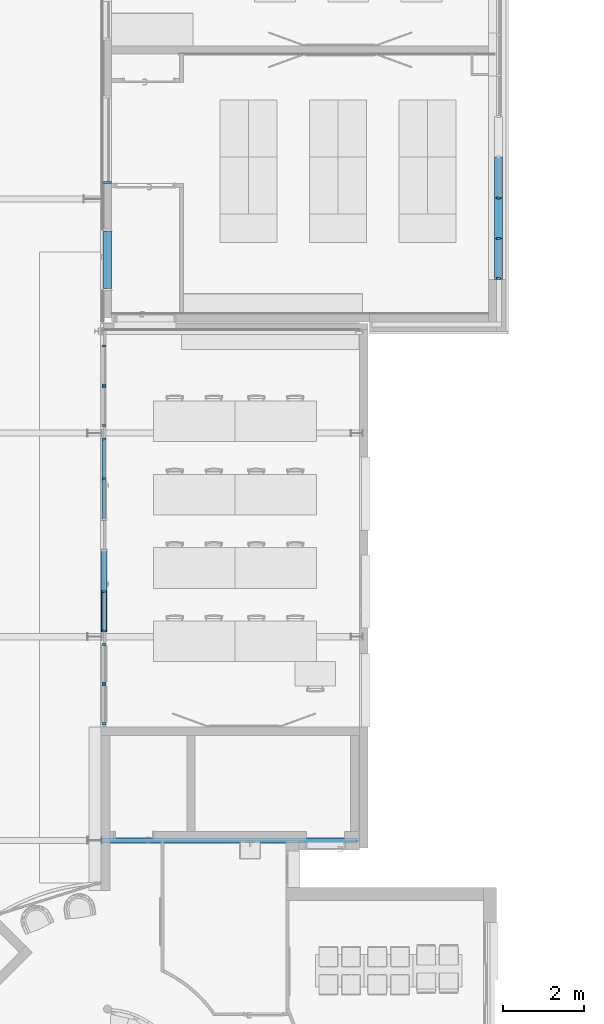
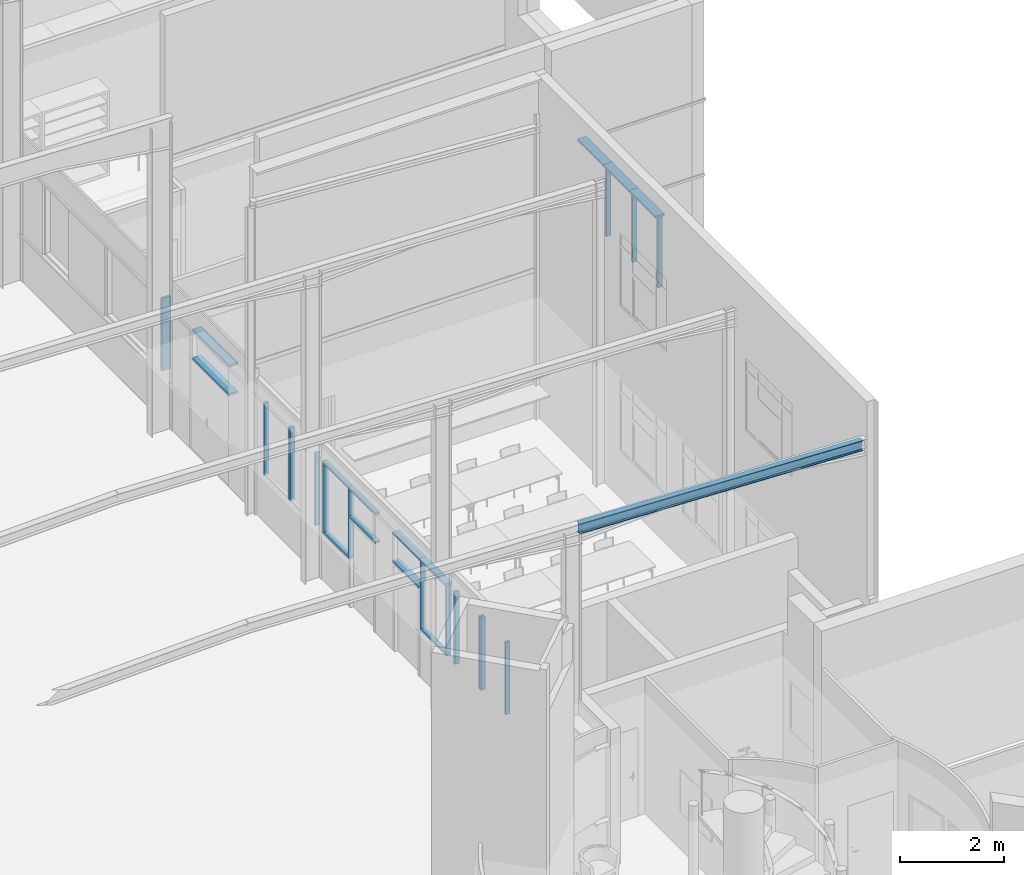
# One storey, part 12 of 137: 29 members, 2 beams, 9 elements without a shape of their own.
"""IFC2X3 building model written with IfcOpenShell, lengths in centimetres."""

from ifc_helpers import new_model, entity, si_unit, converted_unit, derived_unit, direction, frame, frame_2d, origin, origin_2d_with_axis, place, context, subcontext, project, spatial, rectangle, i_section, extrude, material, type_object, element, aggregate, save


model = new_model("IFC2X3")

# Units and contexts
model_context = context("Model", 3, precision=0.001, world=origin(), true_north=direction((6.12303176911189e-17, 1.0)))
body_context = subcontext(model_context, "Body", "Model", "MODEL_VIEW")
ifc_project = project(units=[si_unit("LENGTHUNIT", "METRE", prefix="CENTI"), si_unit("AREAUNIT", "SQUARE_METRE"), si_unit("VOLUMEUNIT", "CUBIC_METRE"), converted_unit("PLANEANGLEUNIT", "DEGREE", entity("IfcRatioMeasure", 0.0174532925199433), si_unit("PLANEANGLEUNIT", "RADIAN"), dimensions=[0, 0, 0, 0, 0, 0, 0]), si_unit("MASSUNIT", "GRAM", prefix="KILO"), si_unit("TIMEUNIT", "SECOND"), si_unit("FREQUENCYUNIT", "HERTZ"), si_unit("THERMODYNAMICTEMPERATUREUNIT", "DEGREE_CELSIUS"), derived_unit("THERMALTRANSMITTANCEUNIT", [(si_unit("MASSUNIT", "GRAM", prefix="KILO"), 1), (si_unit("THERMODYNAMICTEMPERATUREUNIT", "KELVIN"), -1), (si_unit("TIMEUNIT", "SECOND"), -3)]), derived_unit("VOLUMETRICFLOWRATEUNIT", [(si_unit("LENGTHUNIT", "METRE"), 3), (si_unit("TIMEUNIT", "SECOND"), -1)]), si_unit("ELECTRICCURRENTUNIT", "AMPERE"), si_unit("ELECTRICVOLTAGEUNIT", "VOLT"), si_unit("POWERUNIT", "WATT"), si_unit("FORCEUNIT", "NEWTON", prefix="KILO"), si_unit("ILLUMINANCEUNIT", "LUX"), si_unit("LUMINOUSFLUXUNIT", "LUMEN"), si_unit("LUMINOUSINTENSITYUNIT", "CANDELA"), derived_unit("USERDEFINED", [(si_unit("MASSUNIT", "GRAM", prefix="KILO"), -1), (si_unit("LENGTHUNIT", "METRE"), -2), (si_unit("TIMEUNIT", "SECOND"), 3), (si_unit("LUMINOUSFLUXUNIT", "LUMEN"), 1)]), derived_unit("LINEARVELOCITYUNIT", [(si_unit("LENGTHUNIT", "METRE"), 1), (si_unit("TIMEUNIT", "SECOND"), -1)]), si_unit("PRESSUREUNIT", "PASCAL"), derived_unit("USERDEFINED", [(si_unit("LENGTHUNIT", "METRE"), -2), (si_unit("MASSUNIT", "GRAM", prefix="KILO"), 1), (si_unit("TIMEUNIT", "SECOND"), -2)])], contexts=[model_context])

# Site, building, storey
site_placement = place(None, frame((8.62739174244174, -249.285249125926, 0.0)))
site = spatial("IfcSite", under=ifc_project, at=site_placement, Name="Default", CompositionType="ELEMENT")
building_placement = place(site_placement, origin())
building = spatial("IfcBuilding", under=site, at=building_placement, CompositionType="ELEMENT")
storey_placement = place(building_placement, origin())
storey = spatial("IfcBuildingStorey", under=building, at=storey_placement, Name="RDC", CompositionType="ELEMENT", Elevation=-8.82465566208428e-11)

# Beam
ifc_material_1 = material(Name="Métal - Acier - 345 MPa")
beam_1_placement = place(storey_placement, frame((3660.74584424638, 1361.98020806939, 710.800000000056), z_axis=(0.0383289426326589, 0.0, 0.999265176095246), x_axis=(-0.999265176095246, 0.0, 0.0383289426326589)))
element("IfcBeam", 1, at=beam_1_placement, inside=storey, material=ifc_material_1, Name="IPE-Poutrelles_240:IPE240", ObjectType="IPE-Poutrelles_240:IPE240", context=body_context, shape_type="SweptSolid", body=[
    extrude(i_section(OverallWidth=12.0000000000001, OverallDepth=24.0000000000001, WebThickness=0.710000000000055, FlangeThickness=1.0700000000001, FilletRadius=1.50000000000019, at=frame_2d((5.41788836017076e-14, 2.16715534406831e-13), x_axis=(0.0, 1.0))), frame((3.94283010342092, 0.0, -12.0), z_axis=(1.0, 0.0, 0.0), x_axis=(0.0, 0.0, -1.0)), (0.0, 0.0, 1.0), 630.0),
])

# Curtain wall, members
curtain_wall_type = type_object("IfcCurtainWallType", Name="Mur-rideau:Simple panneau", PredefinedType="NOTDEFINED")
curtain_wall_1_placement = place(storey_placement, origin())
curtain_wall_1 = element("IfcCurtainWall", 2, at=curtain_wall_1_placement, inside=storey, type_object=curtain_wall_type, Name="Mur-rideau:Simple panneau", ObjectType="Mur-rideau:Simple panneau")
ifc_material_2 = material(Name="Plastique, blanc opaque")
member_1_placement = place(curtain_wall_1_placement, origin())
member_1 = element("IfcMember", 3, at=member_1_placement, material=ifc_material_2, Name="Mur-rideau:Simple panneau", ObjectType="Mur-rideau:Simple panneau", context=body_context, shape_type="SweptSolid", body=[
    extrude(rectangle(XDim=5.0, YDim=20.0000000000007, at=frame_2d((2.70894418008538e-14, 0.0), x_axis=(1.0, 0.0))), frame((4003.90482781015, 2739.18519336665, 277.500000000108), z_axis=(0.0, 1.0, 0.0), x_axis=(0.0, 0.0, -1.0)), (0.0, 0.0, 1.0), 100.5),
])
member_2_placement = place(curtain_wall_1_placement, origin())
member_2 = element("IfcMember", 4, at=member_2_placement, material=ifc_material_2, Name="Mur-rideau:Simple panneau", ObjectType="Mur-rideau:Simple panneau", context=body_context, shape_type="SweptSolid", body=[
    extrude(rectangle(XDim=9.99999999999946, YDim=5.00000000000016, at=frame_2d((0.0, 2.16715534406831e-13), x_axis=(1.0, 0.0))), frame((4003.90482781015, 2741.68519336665, 110.0), z_axis=(0.0, 0.0, 1.0), x_axis=(-1.0, 0.0, 0.0)), (0.0, 0.0, 1.0), 165.000000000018),
])
member_3_placement = place(curtain_wall_1_placement, origin())
member_3 = element("IfcMember", 5, at=member_3_placement, material=ifc_material_2, Name="Mur-rideau:Simple panneau", ObjectType="Mur-rideau:Simple panneau", context=body_context, shape_type="SweptSolid", body=[
    extrude(rectangle(XDim=5.0, YDim=20.0000000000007, at=frame_2d((2.70894418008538e-14, 0.0), x_axis=(1.0, 0.0))), frame((4003.90482781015, 2939.68519336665, 277.500000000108), z_axis=(0.0, 1.0, 0.0), x_axis=(0.0, 0.0, -1.0)), (0.0, 0.0, 1.0), 100.000000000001),
])
member_4_placement = place(curtain_wall_1_placement, origin())
member_4 = element("IfcMember", 6, at=member_4_placement, material=ifc_material_2, Name="Mur-rideau:Simple panneau", ObjectType="Mur-rideau:Simple panneau", context=body_context, shape_type="SweptSolid", body=[
    extrude(rectangle(XDim=9.99999999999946, YDim=4.99999999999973, at=frame_2d((8.66418048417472e-13, 0.0), x_axis=(1.0, 0.0))), frame((4003.90482781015, 2939.68519336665, 110.0), z_axis=(0.0, 0.0, 1.0), x_axis=(-1.0, 0.0, 0.0)), (0.0, 0.0, 1.0), 165.000000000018),
])
member_5_placement = place(curtain_wall_1_placement, origin())
member_5 = element("IfcMember", 7, at=member_5_placement, material=ifc_material_2, Name="Mur-rideau:Simple panneau", ObjectType="Mur-rideau:Simple panneau", context=body_context, shape_type="SweptSolid", body=[
    extrude(rectangle(XDim=5.0, YDim=20.0000000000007, at=frame_2d((2.70894418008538e-14, 0.0), x_axis=(1.0, 0.0))), frame((4003.90482781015, 2839.68519336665, 277.500000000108), z_axis=(0.0, 1.0, 0.0), x_axis=(0.0, 0.0, -1.0)), (0.0, 0.0, 1.0), 100.000000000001),
])
member_6_placement = place(curtain_wall_1_placement, origin())
member_6 = element("IfcMember", 8, at=member_6_placement, material=ifc_material_2, Name="Mur-rideau:Simple panneau", ObjectType="Mur-rideau:Simple panneau", context=body_context, shape_type="SweptSolid", body=[
    extrude(rectangle(XDim=9.99999999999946, YDim=4.99999999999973, at=origin_2d_with_axis()), frame((4003.90482781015, 2839.68519336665, 110.0), z_axis=(0.0, 0.0, 1.0), x_axis=(-1.0, 0.0, 0.0)), (0.0, 0.0, 1.0), 165.000000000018),
])
aggregate(curtain_wall_1, [member_1, member_2, member_3, member_4, member_5, member_6])

# Curtain wall, member
curtain_wall_2_placement = place(storey_placement, origin())
curtain_wall_2 = element("IfcCurtainWall", 9, at=curtain_wall_2_placement, inside=storey, type_object=curtain_wall_type, Name="Mur-rideau:Simple panneau", ObjectType="Mur-rideau:Simple panneau")
member_7_placement = place(curtain_wall_2_placement, origin())
member_7 = element("IfcMember", 10, at=member_7_placement, material=ifc_material_2, Name="Mur-rideau:Simple panneau", ObjectType="Mur-rideau:Simple panneau", context=body_context, shape_type="SweptSolid", body=[
    extrude(rectangle(XDim=19.9999999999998, YDim=5.00000000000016, at=frame_2d((0.0, -2.16715534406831e-13), x_axis=(1.0, 0.0))), frame((3043.90482779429, 2977.4802074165, 280.0), z_axis=(0.0, 0.0, -1.0), x_axis=(-1.0, 0.0, 0.0)), (0.0, 0.0, 1.0), 170.0),
])
aggregate(curtain_wall_2, [member_7])

# Curtain wall, members
curtain_wall_3_placement = place(storey_placement, origin())
curtain_wall_3 = element("IfcCurtainWall", 11, at=curtain_wall_3_placement, inside=storey, type_object=curtain_wall_type, Name="Mur-rideau:Simple panneau", ObjectType="Mur-rideau:Simple panneau")
member_8_placement = place(curtain_wall_3_placement, origin())
member_8 = element("IfcMember", 12, at=member_8_placement, material=ifc_material_2, Name="Mur-rideau:Simple panneau", ObjectType="Mur-rideau:Simple panneau", context=body_context, shape_type="SweptSolid", body=[
    extrude(rectangle(XDim=5.0, YDim=19.9999999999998, at=frame_2d((2.70894418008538e-14, 0.0), x_axis=(1.0, 0.0))), frame((3043.90482779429, 2716.84806445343, 277.500000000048), z_axis=(0.0, 1.0, 0.0), x_axis=(0.0, 0.0, -1.0)), (0.0, 0.0, 1.0), 140.999999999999),
])
member_9_placement = place(curtain_wall_3_placement, origin())
member_9 = element("IfcMember", 13, at=member_9_placement, material=ifc_material_2, Name="Mur-rideau:Simple panneau", ObjectType="Mur-rideau:Simple panneau", context=body_context, shape_type="SweptSolid", body=[
    extrude(rectangle(XDim=5.0, YDim=19.9999999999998, at=origin_2d_with_axis()), frame((3043.90482779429, 2857.84806445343, 210.500000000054), z_axis=(0.0, -1.0, 0.0), x_axis=(0.0, 0.0, -1.0)), (0.0, 0.0, 1.0), 140.999999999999),
])
aggregate(curtain_wall_3, [member_8, member_9])

# Beam
beam_2_placement = place(storey_placement, frame((3660.74584424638, 1361.98020806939, 710.800000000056), z_axis=(0.0383289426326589, 0.0, 0.999265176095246), x_axis=(-0.999265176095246, 0.0, 0.0383289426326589)))
element("IfcBeam", 14, at=beam_2_placement, inside=storey, material=ifc_material_1, Name="IPE-Poutrelles_240:IPE240", ObjectType="IPE-Poutrelles_240:IPE240", context=body_context, shape_type="SweptSolid", body=[
    extrude(i_section(OverallWidth=12.0000000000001, OverallDepth=24.0000000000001, WebThickness=0.710000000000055, FlangeThickness=1.0700000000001, FilletRadius=1.50000000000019, at=frame_2d((5.41788836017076e-14, 2.16715534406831e-13), x_axis=(0.0, 1.0))), frame((3.94283010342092, 0.0, -12.0), z_axis=(1.0, 0.0, 0.0), x_axis=(0.0, 0.0, -1.0)), (0.0, 0.0, 1.0), 630.0),
])

# Curtain wall, members
curtain_wall_4_placement = place(storey_placement, origin())
curtain_wall_4 = element("IfcCurtainWall", 15, at=curtain_wall_4_placement, inside=storey, type_object=curtain_wall_type, Name="Mur-rideau:Simple panneau", ObjectType="Mur-rideau:Simple panneau")
member_10_placement = place(curtain_wall_4_placement, origin())
member_10 = element("IfcMember", 16, at=member_10_placement, material=ifc_material_2, Name="Mur-rideau:Simple panneau", ObjectType="Mur-rideau:Simple panneau", context=body_context, shape_type="SweptSolid", body=[
    extrude(rectangle(XDim=5.0, YDim=10.0000000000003, at=frame_2d((-2.70894418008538e-14, 0.0), x_axis=(1.0, 0.0))), frame((3034.90482780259, 2349.98020807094, 277.500000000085), z_axis=(0.0, -1.0, 0.0), x_axis=(0.0, 0.0, -1.0)), (0.0, 0.0, 1.0), 99.4999999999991),
])
member_11_placement = place(curtain_wall_4_placement, origin())
member_11 = element("IfcMember", 17, at=member_11_placement, material=ifc_material_2, Name="Mur-rideau:Simple panneau", ObjectType="Mur-rideau:Simple panneau", context=body_context, shape_type="SweptSolid", body=[
    extrude(rectangle(XDim=10.0000000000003, YDim=5.00000000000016, at=frame_2d((0.0, 2.16715534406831e-13), x_axis=(1.0, 0.0))), frame((3034.90482780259, 2347.48020807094, 115.0), z_axis=(0.0, 0.0, 1.0), x_axis=(-1.0, 0.0, 0.0)), (0.0, 0.0, 1.0), 160.0),
])
member_12_placement = place(curtain_wall_4_placement, origin())
member_12 = element("IfcMember", 18, at=member_12_placement, material=ifc_material_2, Name="Mur-rideau:Simple panneau", ObjectType="Mur-rideau:Simple panneau", context=body_context, shape_type="SweptSolid", body=[
    extrude(rectangle(XDim=5.0, YDim=10.0000000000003, at=frame_2d((0.0, 4.33431068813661e-13), x_axis=(1.0, 0.0))), frame((3034.90482780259, 2146.98020807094, 210.500000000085), z_axis=(0.0, 1.0, 0.0), x_axis=(0.0, 0.0, -1.0)), (0.0, 0.0, 1.0), 101.0),
])
member_13_placement = place(curtain_wall_4_placement, origin())
member_13 = element("IfcMember", 19, at=member_13_placement, material=ifc_material_2, Name="Mur-rideau:Simple panneau", ObjectType="Mur-rideau:Simple panneau", context=body_context, shape_type="SweptSolid", body=[
    extrude(rectangle(XDim=5.0, YDim=10.0000000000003, at=frame_2d((-2.70894418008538e-14, 0.0), x_axis=(1.0, 0.0))), frame((3034.90482780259, 2250.48020807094, 277.500000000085), z_axis=(0.0, -1.0, 0.0), x_axis=(0.0, 0.0, -1.0)), (0.0, 0.0, 1.0), 103.500000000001),
])
member_14_placement = place(curtain_wall_4_placement, origin())
member_14 = element("IfcMember", 20, at=member_14_placement, material=ifc_material_2, Name="Mur-rideau:Simple panneau", ObjectType="Mur-rideau:Simple panneau", context=body_context, shape_type="SweptSolid", body=[
    extrude(rectangle(XDim=10.0000000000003, YDim=4.99999999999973, at=origin_2d_with_axis()), frame((3034.90482780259, 2250.48020807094, 115.0), z_axis=(0.0, 0.0, 1.0), x_axis=(-1.0, 0.0, 0.0)), (0.0, 0.0, 1.0), 160.0),
])
member_15_placement = place(curtain_wall_4_placement, origin())
member_15 = element("IfcMember", 21, at=member_15_placement, material=ifc_material_2, Name="Mur-rideau:Simple panneau", ObjectType="Mur-rideau:Simple panneau", context=body_context, shape_type="SweptSolid", body=[
    extrude(rectangle(XDim=5.0, YDim=10.0000000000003, at=frame_2d((0.0, 4.33431068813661e-13), x_axis=(1.0, 0.0))), frame((3034.90482780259, 2247.98020807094, 112.500000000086), z_axis=(0.0, 1.0, 0.0), x_axis=(0.0, 0.0, -1.0)), (0.0, 0.0, 1.0), 101.999999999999),
])
aggregate(curtain_wall_4, [member_10, member_11, member_12, member_13, member_14, member_15])

curtain_wall_5_placement = place(storey_placement, origin())
curtain_wall_5 = element("IfcCurtainWall", 22, at=curtain_wall_5_placement, inside=storey, type_object=curtain_wall_type, Name="Mur-rideau:Simple panneau", ObjectType="Mur-rideau:Simple panneau")
member_16_placement = place(curtain_wall_5_placement, origin())
member_16 = element("IfcMember", 23, at=member_16_placement, material=ifc_material_2, Name="Mur-rideau:Simple panneau", ObjectType="Mur-rideau:Simple panneau", context=body_context, shape_type="SweptSolid", body=[
    extrude(rectangle(XDim=10.0000000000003, YDim=4.99999999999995, at=frame_2d((-4.33431068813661e-13, 1.08357767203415e-13), x_axis=(1.0, 0.0))), frame((3034.90482780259, 1843.48020806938, 280.0), z_axis=(0.0, 0.0, -1.0), x_axis=(-1.0, 0.0, 0.0)), (0.0, 0.0, 1.0), 170.0),
])
member_17_placement = place(curtain_wall_5_placement, origin())
member_17 = element("IfcMember", 24, at=member_17_placement, material=ifc_material_2, Name="Mur-rideau:Simple panneau", ObjectType="Mur-rideau:Simple panneau", context=body_context, shape_type="SweptSolid", body=[
    extrude(rectangle(XDim=10.0000000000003, YDim=4.99999999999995, at=frame_2d((0.0, -1.08357767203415e-13), x_axis=(1.0, 0.0))), frame((3034.90482780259, 1748.48020806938, 110.0), z_axis=(0.0, 0.0, 1.0), x_axis=(-1.0, 0.0, 0.0)), (0.0, 0.0, 1.0), 170.0),
])
aggregate(curtain_wall_5, [member_16, member_17])

curtain_wall_6_placement = place(storey_placement, origin())
curtain_wall_6 = element("IfcCurtainWall", 25, at=curtain_wall_6_placement, inside=storey, type_object=curtain_wall_type, Name="Mur-rideau:Simple panneau", ObjectType="Mur-rideau:Simple panneau")
member_18_placement = place(curtain_wall_6_placement, origin())
member_18 = element("IfcMember", 26, at=member_18_placement, material=ifc_material_2, Name="Mur-rideau:Simple panneau", ObjectType="Mur-rideau:Simple panneau", context=body_context, shape_type="SweptSolid", body=[
    extrude(rectangle(XDim=10.0000000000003, YDim=4.99999999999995, at=frame_2d((-4.33431068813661e-13, 1.08357767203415e-13), x_axis=(1.0, 0.0))), frame((3034.90482780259, 1743.48020806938, 280.0), z_axis=(0.0, 0.0, -1.0), x_axis=(-1.0, 0.0, 0.0)), (0.0, 0.0, 1.0), 170.0),
])
member_19_placement = place(curtain_wall_6_placement, origin())
member_19 = element("IfcMember", 27, at=member_19_placement, material=ifc_material_2, Name="Mur-rideau:Simple panneau", ObjectType="Mur-rideau:Simple panneau", context=body_context, shape_type="SweptSolid", body=[
    extrude(rectangle(XDim=10.0000000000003, YDim=4.99999999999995, at=frame_2d((0.0, -1.08357767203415e-13), x_axis=(1.0, 0.0))), frame((3034.90482780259, 1648.48020806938, 110.0), z_axis=(0.0, 0.0, 1.0), x_axis=(-1.0, 0.0, 0.0)), (0.0, 0.0, 1.0), 170.0),
])
aggregate(curtain_wall_6, [member_18, member_19])

curtain_wall_7_placement = place(storey_placement, origin())
curtain_wall_7 = element("IfcCurtainWall", 28, at=curtain_wall_7_placement, inside=storey, type_object=curtain_wall_type, Name="Mur-rideau:Simple panneau", ObjectType="Mur-rideau:Simple panneau")
member_20_placement = place(curtain_wall_7_placement, origin())
member_20 = element("IfcMember", 29, at=member_20_placement, material=ifc_material_2, Name="Mur-rideau:Simple panneau:661", ObjectType="Mur-rideau:Simple panneau:661", context=body_context, shape_type="SweptSolid", body=[
    extrude(rectangle(XDim=5.0, YDim=15.0000000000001, at=frame_2d((-2.70894418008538e-14, 0.0), x_axis=(1.0, 0.0))), frame((3034.90482780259, 1873.98020807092, 277.500000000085), z_axis=(0.0, 1.0, 0.0), x_axis=(0.0, 0.0, -1.0)), (0.0, 0.0, 1.0), 99.4999999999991),
])
member_21_placement = place(curtain_wall_7_placement, origin())
member_21 = element("IfcMember", 30, at=member_21_placement, material=ifc_material_2, Name="Mur-rideau:Simple panneau", ObjectType="Mur-rideau:Simple panneau", context=body_context, shape_type="SweptSolid", body=[
    extrude(rectangle(XDim=10.0000000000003, YDim=4.99999999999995, at=frame_2d((0.0, 1.08357767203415e-13), x_axis=(1.0, 0.0))), frame((3034.90482780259, 1876.48020807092, 115.0), z_axis=(0.0, 0.0, 1.0), x_axis=(-1.0, 0.0, 0.0)), (0.0, 0.0, 1.0), 160.0),
])
member_22_placement = place(curtain_wall_7_placement, origin())
member_22 = element("IfcMember", 31, at=member_22_placement, material=ifc_material_2, Name="Mur-rideau:Simple panneau:661", ObjectType="Mur-rideau:Simple panneau:661", context=body_context, shape_type="SweptSolid", body=[
    extrude(rectangle(XDim=5.0, YDim=15.0000000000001, at=origin_2d_with_axis()), frame((3034.90482780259, 2076.98020807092, 210.500000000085), z_axis=(0.0, -1.0, 0.0), x_axis=(0.0, 0.0, -1.0)), (0.0, 0.0, 1.0), 101.0),
])
member_23_placement = place(curtain_wall_7_placement, origin())
member_23 = element("IfcMember", 32, at=member_23_placement, material=ifc_material_2, Name="Mur-rideau:Simple panneau:661", ObjectType="Mur-rideau:Simple panneau:661", context=body_context, shape_type="SweptSolid", body=[
    extrude(rectangle(XDim=5.0, YDim=15.0000000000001, at=frame_2d((-2.70894418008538e-14, 0.0), x_axis=(1.0, 0.0))), frame((3034.90482780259, 1973.48020807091, 277.500000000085), z_axis=(0.0, 1.0, 0.0), x_axis=(0.0, 0.0, -1.0)), (0.0, 0.0, 1.0), 103.500000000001),
])
member_24_placement = place(curtain_wall_7_placement, origin())
member_24 = element("IfcMember", 33, at=member_24_placement, material=ifc_material_2, Name="Mur-rideau:Simple panneau", ObjectType="Mur-rideau:Simple panneau", context=body_context, shape_type="SweptSolid", body=[
    extrude(rectangle(XDim=10.0000000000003, YDim=4.99999999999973, at=origin_2d_with_axis()), frame((3034.90482780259, 1973.48020807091, 115.0), z_axis=(0.0, 0.0, 1.0), x_axis=(-1.0, 0.0, 0.0)), (0.0, 0.0, 1.0), 160.0),
])
member_25_placement = place(curtain_wall_7_placement, origin())
member_25 = element("IfcMember", 34, at=member_25_placement, material=ifc_material_2, Name="Mur-rideau:Simple panneau", ObjectType="Mur-rideau:Simple panneau", context=body_context, shape_type="SweptSolid", body=[
    extrude(rectangle(XDim=5.0, YDim=10.0000000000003, at=origin_2d_with_axis()), frame((3034.90482780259, 1975.98020807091, 112.500000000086), z_axis=(0.0, -1.0, 0.0), x_axis=(0.0, 0.0, -1.0)), (0.0, 0.0, 1.0), 101.999999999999),
])
aggregate(curtain_wall_7, [member_20, member_21, member_22, member_23, member_24, member_25])

curtain_wall_8_placement = place(storey_placement, origin())
curtain_wall_8 = element("IfcCurtainWall", 35, at=curtain_wall_8_placement, inside=storey, type_object=curtain_wall_type, Name="Mur-rideau:Simple panneau", ObjectType="Mur-rideau:Simple panneau")
member_26_placement = place(curtain_wall_8_placement, origin())
member_26 = element("IfcMember", 36, at=member_26_placement, material=ifc_material_2, Name="Mur-rideau:Simple panneau", ObjectType="Mur-rideau:Simple panneau", context=body_context, shape_type="SweptSolid", body=[
    extrude(rectangle(XDim=10.0000000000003, YDim=5.00000000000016, at=frame_2d((0.0, 2.16715534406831e-13), x_axis=(1.0, 0.0))), frame((3034.90482780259, 2575.48020806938, 280.0), z_axis=(0.0, 0.0, -1.0), x_axis=(-1.0, 0.0, 0.0)), (0.0, 0.0, 1.0), 170.0),
])
member_27_placement = place(curtain_wall_8_placement, origin())
member_27 = element("IfcMember", 37, at=member_27_placement, material=ifc_material_2, Name="Mur-rideau:Simple panneau", ObjectType="Mur-rideau:Simple panneau", context=body_context, shape_type="SweptSolid", body=[
    extrude(rectangle(XDim=10.0000000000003, YDim=5.00000000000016, at=frame_2d((0.0, 2.16715534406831e-13), x_axis=(1.0, 0.0))), frame((3034.90482780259, 2480.48020806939, 110.0), z_axis=(0.0, 0.0, 1.0), x_axis=(-1.0, 0.0, 0.0)), (0.0, 0.0, 1.0), 170.0),
])
aggregate(curtain_wall_8, [member_26, member_27])

curtain_wall_9_placement = place(storey_placement, origin())
curtain_wall_9 = element("IfcCurtainWall", 38, at=curtain_wall_9_placement, inside=storey, type_object=curtain_wall_type, Name="Mur-rideau:Simple panneau", ObjectType="Mur-rideau:Simple panneau")
member_28_placement = place(curtain_wall_9_placement, origin())
member_28 = element("IfcMember", 39, at=member_28_placement, material=ifc_material_2, Name="Mur-rideau:Simple panneau", ObjectType="Mur-rideau:Simple panneau", context=body_context, shape_type="SweptSolid", body=[
    extrude(rectangle(XDim=10.0000000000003, YDim=5.00000000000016, at=frame_2d((0.0, 2.16715534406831e-13), x_axis=(1.0, 0.0))), frame((3034.90482780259, 2475.48020806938, 280.0), z_axis=(0.0, 0.0, -1.0), x_axis=(-1.0, 0.0, 0.0)), (0.0, 0.0, 1.0), 170.0),
])
member_29_placement = place(curtain_wall_9_placement, origin())
member_29 = element("IfcMember", 40, at=member_29_placement, material=ifc_material_2, Name="Mur-rideau:Simple panneau", ObjectType="Mur-rideau:Simple panneau", context=body_context, shape_type="SweptSolid", body=[
    extrude(rectangle(XDim=10.0000000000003, YDim=5.00000000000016, at=frame_2d((0.0, 2.16715534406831e-13), x_axis=(1.0, 0.0))), frame((3034.90482780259, 2380.48020806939, 110.0), z_axis=(0.0, 0.0, 1.0), x_axis=(-1.0, 0.0, 0.0)), (0.0, 0.0, 1.0), 170.0),
])
aggregate(curtain_wall_9, [member_28, member_29])

save(model, "model.ifc")
